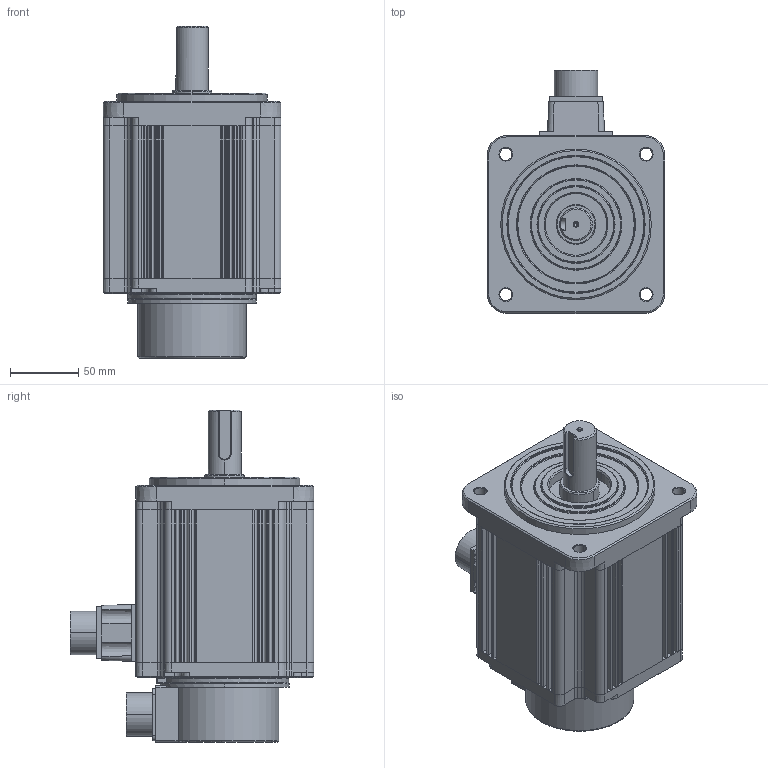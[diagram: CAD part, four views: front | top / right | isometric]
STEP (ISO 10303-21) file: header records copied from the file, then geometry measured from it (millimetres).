
FILE_DESCRIPTION((''),'2;1');
FILE_NAME('ECMA-C11330E4','2017-01-04T',('MIO.CHEN'),(''),'PRO/ENGINEER BY PARAMETRIC TECHNOLOGY CORPORATION, 2010180','PRO/ENGINEER BY PARAMETRIC TECHNOLOGY CORPORATION, 2010180','');
FILE_SCHEMA(('AUTOMOTIVE_DESIGN_CC2 { 1 2 10303 214 -1 1 5 2 }'));
Length unit declared in the file: millimetre
Products named in the file (1): ECMA-C11330E4
Bounding box: 130 x 177.75 x 242.5 mm (x, y, z)
Volume: 2488836.9 mm3; surface area: 154305.4 mm2
Topology: 1 solids, 1 shells, 543 faces, 1316 edges, 784 vertices
Faces by surface type: plane 270, cylinder 142, cone 102, torus 21, bspline 4, sphere 4
Entity records: 15948 total; most frequent: CARTESIAN_POINT 3058, DIRECTION 2792, ORIENTED_EDGE 2620, EDGE_CURVE 1310, AXIS2_PLACEMENT_3D 998, VECTOR 796, LINE 796, VERTEX_POINT 784
